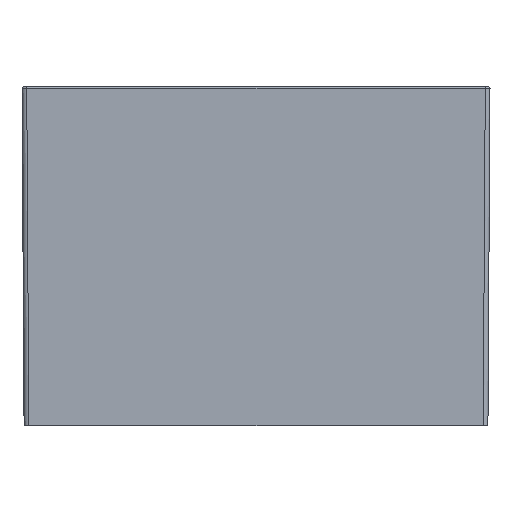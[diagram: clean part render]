
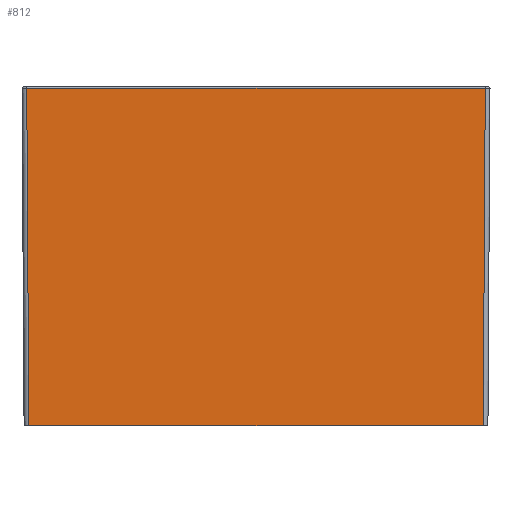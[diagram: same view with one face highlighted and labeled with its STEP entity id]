
A CAD part, left-side view. The second image highlights one B-rep face of the part: STEP entity #812.
In plain terms, the highlighted planar face has unit normal (-1, 0, -0.006).
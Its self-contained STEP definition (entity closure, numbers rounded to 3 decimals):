
#118=PLANE('',#3937);
#546=LINE('',#44531,#695);
#551=LINE('',#44560,#700);
#552=LINE('',#44562,#701);
#553=LINE('',#44564,#702);
#695=VECTOR('',#4423,1.);
#700=VECTOR('',#4436,1.);
#701=VECTOR('',#4437,1.);
#702=VECTOR('',#4438,1.);
#812=ADVANCED_FACE('',(#1086),#118,.F.);
#1086=FACE_OUTER_BOUND('',#1337,.T.);
#1337=EDGE_LOOP('',(#1908,#1909,#1910,#1911));
#1908=ORIENTED_EDGE('',*,*,#3296,.T.);
#1909=ORIENTED_EDGE('',*,*,#3297,.T.);
#1910=ORIENTED_EDGE('',*,*,#3298,.T.);
#1911=ORIENTED_EDGE('',*,*,#3288,.F.);
#2904=VERTEX_POINT('',#44530);
#2905=VERTEX_POINT('',#44532);
#2909=VERTEX_POINT('',#44561);
#2910=VERTEX_POINT('',#44563);
#3288=EDGE_CURVE('',#2904,#2905,#546,.T.);
#3296=EDGE_CURVE('',#2904,#2909,#551,.T.);
#3297=EDGE_CURVE('',#2909,#2910,#552,.T.);
#3298=EDGE_CURVE('',#2910,#2905,#553,.T.);
#3937=AXIS2_PLACEMENT_3D('',#44565,#4439,#4440);
#4423=DIRECTION('',(0.,1.,0.));
#4436=DIRECTION('',(-0.006,-0.006,1.));
#4437=DIRECTION('',(0.,1.,0.));
#4438=DIRECTION('',(0.006,-0.006,-1.));
#4439=DIRECTION('',(1.,0.,0.006));
#4440=DIRECTION('',(0.006,0.,-1.));
#44530=CARTESIAN_POINT('',(-1276.242,-332.936,-49.7));
#44531=CARTESIAN_POINT('',(-1276.242,-342.93,-49.7));
#44532=CARTESIAN_POINT('',(-1276.242,332.936,-49.7));
#44560=CARTESIAN_POINT('',(-1279.278,-335.972,447.343));
#44561=CARTESIAN_POINT('',(-1279.26,-335.954,444.3));
#44562=CARTESIAN_POINT('',(-1279.26,335.972,444.3));
#44563=CARTESIAN_POINT('',(-1279.26,335.954,444.3));
#44564=CARTESIAN_POINT('',(-1279.253,335.947,443.153));
#44565=CARTESIAN_POINT('',(-1279.278,-342.93,447.3));
